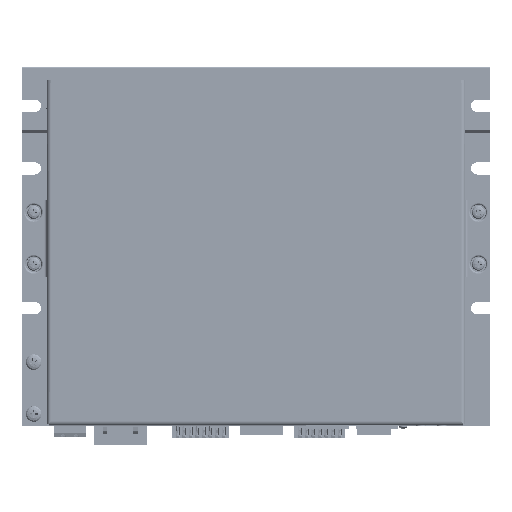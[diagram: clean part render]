
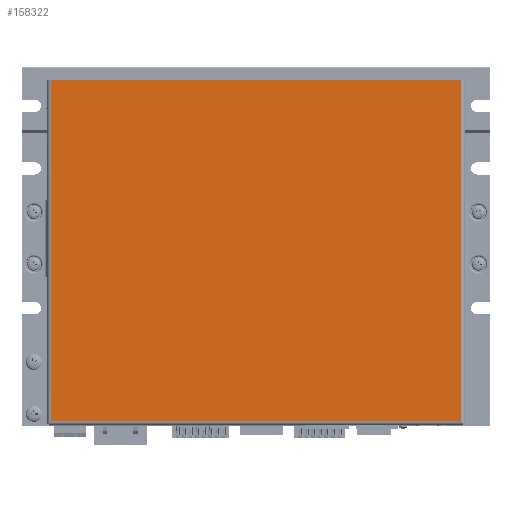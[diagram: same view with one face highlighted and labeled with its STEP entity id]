
A CAD part, top view. The second image highlights one B-rep face of the part: STEP entity #158322.
In plain terms, the highlighted planar face has unit normal (0, 0, 1).
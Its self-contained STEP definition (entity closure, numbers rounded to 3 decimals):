
#17965=LINE('',#243640,#32162);
#17992=LINE('',#243739,#32189);
#17993=LINE('',#243741,#32190);
#17994=LINE('',#243743,#32191);
#32162=VECTOR('',#199875,1000.);
#32189=VECTOR('',#199992,1000.);
#32190=VECTOR('',#199993,1000.);
#32191=VECTOR('',#199994,1000.);
#66359=ORIENTED_EDGE('',*,*,#86049,.T.);
#66360=ORIENTED_EDGE('',*,*,#86050,.T.);
#66361=ORIENTED_EDGE('',*,*,#86051,.T.);
#66362=ORIENTED_EDGE('',*,*,#86003,.T.);
#86003=EDGE_CURVE('',#98460,#98459,#17965,.T.);
#86049=EDGE_CURVE('',#98459,#98487,#17992,.T.);
#86050=EDGE_CURVE('',#98487,#98488,#17993,.T.);
#86051=EDGE_CURVE('',#98488,#98460,#17994,.T.);
#98459=VERTEX_POINT('',#243639);
#98460=VERTEX_POINT('',#243641);
#98487=VERTEX_POINT('',#243740);
#98488=VERTEX_POINT('',#243742);
#107628=EDGE_LOOP('',(#66359,#66360,#66361,#66362));
#115925=FACE_BOUND('',#107628,.T.);
#121515=PLANE('',#168199);
#158322=ADVANCED_FACE('',(#115925),#121515,.T.);
#168199=AXIS2_PLACEMENT_3D('',#243738,#199990,#199991);
#199875=DIRECTION('',(-1.,0.,0.));
#199990=DIRECTION('',(0.,0.,1.));
#199991=DIRECTION('',(1.,0.,0.));
#199992=DIRECTION('',(0.,-1.,0.));
#199993=DIRECTION('',(1.,0.,0.));
#199994=DIRECTION('',(0.,1.,0.));
#243639=CARTESIAN_POINT('',(-79.05,66.75,0.));
#243640=CARTESIAN_POINT('',(80.75,66.75,0.));
#243641=CARTESIAN_POINT('',(79.05,66.75,0.));
#243738=CARTESIAN_POINT('',(0.,0.,0.));
#243739=CARTESIAN_POINT('',(-79.05,66.75,0.));
#243740=CARTESIAN_POINT('',(-79.05,-65.05,0.));
#243741=CARTESIAN_POINT('',(-79.05,-65.05,0.));
#243742=CARTESIAN_POINT('',(79.05,-65.05,0.));
#243743=CARTESIAN_POINT('',(79.05,-66.75,0.));
